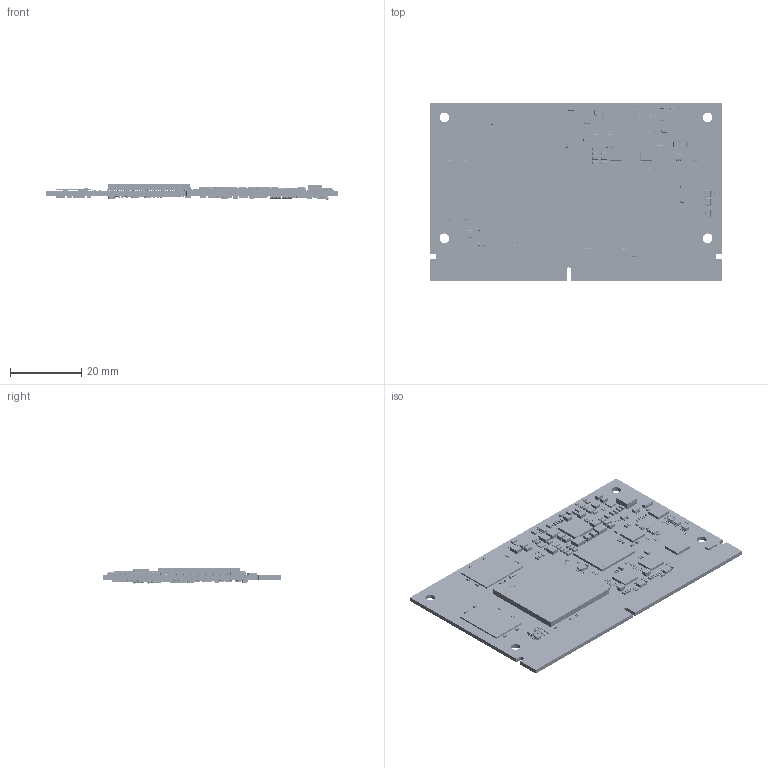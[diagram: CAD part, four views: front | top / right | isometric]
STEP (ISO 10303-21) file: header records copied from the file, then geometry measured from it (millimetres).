
FILE_DESCRIPTION(('Open CASCADE Model'),'2;1');
FILE_NAME('Open CASCADE Shape Model','2025-12-04T15:15:42',('Author'),( 'Open CASCADE'),'Open CASCADE STEP processor 7.5','Open CASCADE 7.5' ,'Unknown');
FILE_SCHEMA(('AUTOMOTIVE_DESIGN { 1 0 10303 214 1 1 1 1 }'));
Length unit declared in the file: millimetre
Products named in the file (852): PCB; Board; Open CASCADE STEP translator 7.5 1.1.1; R184; User Library-d0402h025; R183; VT6; User Library-SC-75A; Free-Models2; 422102609; Extruded13; 422105809; Extruded10; 422103249; Extruded15; 422105041; Extruded9; 422104657; Extruded11; 422103633; Extruded8; 422104529; Extruded14; PIN1; Board2; Free-Models3; 422102481; Extruded12; Board3; R182; R181; R180; R179; R178; R128; R127; R123; R122; D19; 16914459248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
Assembly tree (2730 placements, depth 8):
  PCB
    Board
      Open CASCADE STEP translator 7.5 1.1.1
    R184
      User Library-d0402h025
    R183
      User Library-d0402h025
    VT6
      User Library-SC-75A
        Free-Models2
          422102609
            Extruded13
          422105809
            Extruded10
          422103249
            Extruded15
          422105041
            Extruded9
          422104657
            Extruded11
          422103633
            Extruded8
          422104529
            Extruded14
          PIN1  x3
            Board2
            Free-Models3
              422102481
                Extruded12
        Board3
    R182
      User Library-d0402h025
    R181
      User Library-d0402h025
    R180
      User Library-d0402h025
    R179
      User Library-d0402h025
    R178
      User Library-d0402h025
    R128
      User Library-d0402h025
    R127
      User Library-d0402h025
    R123
      User Library-d0402h025
    R122
      User Library-d0402h025
    D19
      16914459248
        Open CASCADE STEP translator 7.5 13.1
        Body
          Open CASCADE STEP translator 7.5 13.2.1
        Leader  x8
    D18
      16914459248
        Open CASCADE STEP translator 7.5 13.1
        Body
          Open CASCADE STEP translator 7.5 13.2.1
        Leader  x8
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Bounding box: 82 x 50 x 4.22 mm (x, y, z)
Volume: 6550.5 mm3; surface area: 14361.7 mm2
Topology: 2406 solids, 2418 shells, 29458 faces, 68675 edges, 38707 vertices
Faces by surface type: plane 14105, cylinder 10258, sphere 3292, bspline 1631, revolution 156, torus 16
Full cylindrical faces by diameter (mm): 0.122 x13, 0.375 x2, 0.4 x7, 0.5 x1, 0.6 x2, 0.8 x2, 0.875 x1, 1 x1, 2.7 x4, 2.875 x1
Entity records: 92264 total; most frequent: CARTESIAN_POINT 15635, DIRECTION 14063, ORIENTED_EDGE 8593, AXIS2_PLACEMENT_3D 5447, EDGE_CURVE 4300, PRODUCT_DEFINITION_SHAPE 3582, LINE 3157, VECTOR 3157
